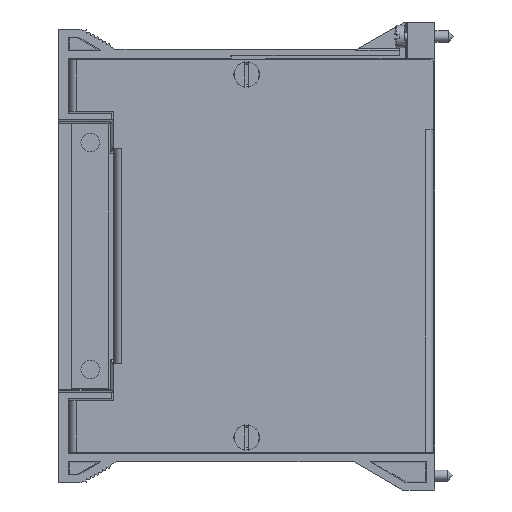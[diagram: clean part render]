
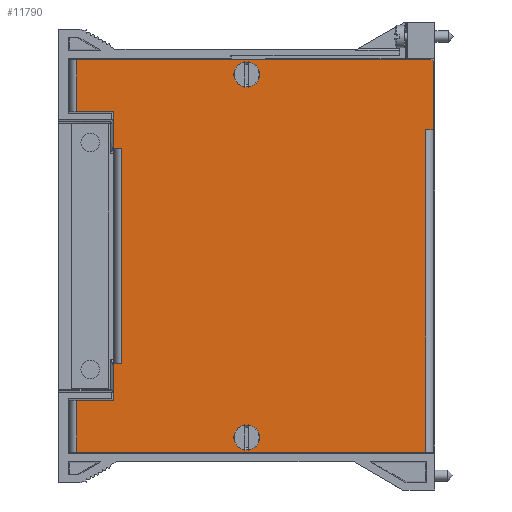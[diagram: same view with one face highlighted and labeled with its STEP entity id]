
A CAD part, top view. The second image highlights one B-rep face of the part: STEP entity #11790.
In plain terms, the highlighted planar face has unit normal (0, 0, 1).
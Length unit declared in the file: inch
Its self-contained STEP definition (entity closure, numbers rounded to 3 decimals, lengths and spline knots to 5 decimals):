
#1996=DIRECTION('',(0.,1.,0.));
#1997=VECTOR('',#1996,0.3225);
#1998=CARTESIAN_POINT('',(-2.8275,-1.2725,0.384));
#1999=LINE('',#1998,#1997);
#2000=DIRECTION('',(-1.,0.,0.));
#2001=VECTOR('',#2000,0.067);
#2002=CARTESIAN_POINT('',(-2.7605,-0.95,0.384));
#2003=LINE('',#2002,#2001);
#2004=DIRECTION('',(-1.,0.,0.));
#2005=VECTOR('',#2004,0.067);
#2006=CARTESIAN_POINT('',(-2.7605,0.95,0.384));
#2007=LINE('',#2006,#2005);
#2008=DIRECTION('',(0.,1.,0.));
#2009=VECTOR('',#2008,0.3225);
#2010=CARTESIAN_POINT('',(-2.8275,0.95,0.384));
#2011=LINE('',#2010,#2009);
#2012=DIRECTION('',(1.,0.,0.));
#2013=VECTOR('',#2012,0.328);
#2014=CARTESIAN_POINT('',(-3.1555,1.2725,0.384));
#2015=LINE('',#2014,#2013);
#2016=DIRECTION('',(-1.,0.,0.));
#2017=VECTOR('',#2016,3.123);
#2018=CARTESIAN_POINT('',(-0.0325,1.73,0.384));
#2019=LINE('',#2018,#2017);
#2020=DIRECTION('',(0.,1.,0.));
#2021=VECTOR('',#2020,0.595);
#2022=CARTESIAN_POINT('',(-0.0125,1.115,0.384));
#2023=LINE('',#2022,#2021);
#2024=DIRECTION('',(1.,0.,0.));
#2025=VECTOR('',#2024,0.067);
#2026=CARTESIAN_POINT('',(-0.0795,1.115,0.384));
#2027=LINE('',#2026,#2025);
#2028=DIRECTION('',(1.,0.,0.));
#2029=VECTOR('',#2028,3.076);
#2030=CARTESIAN_POINT('',(-3.1555,-1.73,0.384));
#2031=LINE('',#2030,#2029);
#2032=DIRECTION('',(1.,0.,0.));
#2033=VECTOR('',#2032,0.328);
#2034=CARTESIAN_POINT('',(-3.1555,-1.2725,0.384));
#2035=LINE('',#2034,#2033);
#2036=CARTESIAN_POINT('',(-1.6563,-1.6,0.384));
#2037=DIRECTION('',(0.,0.,-1.));
#2038=DIRECTION('',(-0.159,0.987,0.));
#2039=AXIS2_PLACEMENT_3D('',#2036,#2037,#2038);
#2041=CARTESIAN_POINT('',(-1.6563,-1.6,0.384));
#2042=DIRECTION('',(0.,0.,-1.));
#2043=DIRECTION('',(0.159,-0.987,0.));
#2044=AXIS2_PLACEMENT_3D('',#2041,#2042,#2043);
#2046=CARTESIAN_POINT('',(-1.6563,1.6,0.384));
#2047=DIRECTION('',(0.,0.,1.));
#2048=DIRECTION('',(0.159,0.987,0.));
#2049=AXIS2_PLACEMENT_3D('',#2046,#2047,#2048);
#2051=CARTESIAN_POINT('',(-1.6563,1.6,0.384));
#2052=DIRECTION('',(0.,0.,1.));
#2053=DIRECTION('',(-0.159,-0.987,0.));
#2054=AXIS2_PLACEMENT_3D('',#2051,#2052,#2053);
#3572=DIRECTION('',(0.,1.,0.));
#3573=VECTOR('',#3572,0.4575);
#3574=CARTESIAN_POINT('',(-3.1555,-1.73,0.384));
#3575=LINE('',#3574,#3573);
#3709=DIRECTION('',(0.,-1.,0.));
#3710=VECTOR('',#3709,2.845);
#3711=CARTESIAN_POINT('',(-0.0795,1.115,0.384));
#3712=LINE('',#3711,#3710);
#3778=DIRECTION('',(-0.707,0.707,0.));
#3779=VECTOR('',#3778,0.02828);
#3780=CARTESIAN_POINT('',(-0.0125,1.71,0.384));
#3781=LINE('',#3780,#3779);
#6299=DIRECTION('',(0.,-1.,0.));
#6300=VECTOR('',#6299,1.9);
#6301=CARTESIAN_POINT('',(-2.7605,0.95,0.384));
#6302=LINE('',#6301,#6300);
#6403=DIRECTION('',(0.,1.,0.));
#6404=VECTOR('',#6403,0.4575);
#6405=CARTESIAN_POINT('',(-3.1555,1.2725,0.384));
#6406=LINE('',#6405,#6404);
#6518=CARTESIAN_POINT('',(-1.6738,-1.4914,0.384));
#6520=CARTESIAN_POINT('',(-1.6388,-1.4914,0.384));
#6545=CARTESIAN_POINT('',(-1.6388,-1.7086,0.384));
#6547=CARTESIAN_POINT('',(-1.6738,-1.7086,0.384));
#6571=CARTESIAN_POINT('',(-1.6563,-1.6,0.384));
#6572=DIRECTION('',(0.,0.,-1.));
#6573=DIRECTION('',(0.159,0.987,0.));
#6574=AXIS2_PLACEMENT_3D('',#6571,#6572,#6573);
#6592=CARTESIAN_POINT('',(-1.6563,-1.6,0.384));
#6593=DIRECTION('',(0.,0.,-1.));
#6594=DIRECTION('',(-0.159,-0.987,0.));
#6595=AXIS2_PLACEMENT_3D('',#6592,#6593,#6594);
#6611=CARTESIAN_POINT('',(-1.6738,1.7086,0.384));
#6623=CARTESIAN_POINT('',(-1.6388,1.7086,0.384));
#6650=CARTESIAN_POINT('',(-1.6563,1.6,0.384));
#6651=DIRECTION('',(0.,0.,-1.));
#6652=DIRECTION('',(0.159,0.987,0.));
#6653=AXIS2_PLACEMENT_3D('',#6650,#6651,#6652);
#6664=CARTESIAN_POINT('',(-1.6388,1.4914,0.384));
#6676=CARTESIAN_POINT('',(-1.6738,1.4914,0.384));
#6690=CARTESIAN_POINT('',(-1.6563,1.6,0.384));
#6691=DIRECTION('',(0.,0.,-1.));
#6692=DIRECTION('',(-0.159,-0.987,0.));
#6693=AXIS2_PLACEMENT_3D('',#6690,#6691,#6692);
#9626=CARTESIAN_POINT('',(-3.1555,1.73,0.384));
#9628=VERTEX_POINT('',#9626);
#9630=CARTESIAN_POINT('',(-3.1555,-1.73,0.384));
#9632=VERTEX_POINT('',#9630);
#9641=CARTESIAN_POINT('',(-3.1555,-1.2725,0.384));
#9642=CARTESIAN_POINT('',(-2.8275,-1.2725,0.384));
#9643=VERTEX_POINT('',#9641);
#9644=VERTEX_POINT('',#9642);
#9645=CARTESIAN_POINT('',(-3.1555,1.2725,0.384));
#9646=CARTESIAN_POINT('',(-2.8275,1.2725,0.384));
#9647=VERTEX_POINT('',#9645);
#9648=VERTEX_POINT('',#9646);
#9685=CARTESIAN_POINT('',(-0.0795,1.115,0.384));
#9686=CARTESIAN_POINT('',(-0.0125,1.115,0.384));
#9687=VERTEX_POINT('',#9685);
#9688=VERTEX_POINT('',#9686);
#9697=CARTESIAN_POINT('',(-0.0795,-1.73,0.384));
#9698=VERTEX_POINT('',#9697);
#9709=CARTESIAN_POINT('',(-2.7605,0.95,0.384));
#9710=CARTESIAN_POINT('',(-2.8275,0.95,0.384));
#9711=VERTEX_POINT('',#9709);
#9712=VERTEX_POINT('',#9710);
#9717=CARTESIAN_POINT('',(-2.7605,-0.95,0.384));
#9718=CARTESIAN_POINT('',(-2.8275,-0.95,0.384));
#9719=VERTEX_POINT('',#9717);
#9720=VERTEX_POINT('',#9718);
#9797=CARTESIAN_POINT('',(-0.0125,1.71,0.384));
#9798=CARTESIAN_POINT('',(-0.0325,1.73,0.384));
#9799=VERTEX_POINT('',#9797);
#9800=VERTEX_POINT('',#9798);
#9887=VERTEX_POINT('',#6545);
#9888=VERTEX_POINT('',#6547);
#9893=VERTEX_POINT('',#6520);
#9894=VERTEX_POINT('',#6518);
#9931=VERTEX_POINT('',#6623);
#9932=VERTEX_POINT('',#6611);
#9937=VERTEX_POINT('',#6664);
#9938=VERTEX_POINT('',#6676);
#11736=CARTESIAN_POINT('',(-3.2225,0.,0.384));
#11737=DIRECTION('',(0.,0.,1.));
#11738=DIRECTION('',(1.,0.,0.));
#11739=AXIS2_PLACEMENT_3D('',#11736,#11737,#11738);
#11740=PLANE('',#11739);
#11742=ORIENTED_EDGE('',*,*,#11741,.T.);
#11744=ORIENTED_EDGE('',*,*,#11743,.F.);
#11746=ORIENTED_EDGE('',*,*,#11745,.F.);
#11748=ORIENTED_EDGE('',*,*,#11747,.T.);
#11749=ORIENTED_EDGE('',*,*,#11706,.T.);
#11750=ORIENTED_EDGE('',*,*,#11719,.F.);
#11752=ORIENTED_EDGE('',*,*,#11751,.T.);
#11753=ORIENTED_EDGE('',*,*,#11337,.F.);
#11755=ORIENTED_EDGE('',*,*,#11754,.F.);
#11757=ORIENTED_EDGE('',*,*,#11756,.F.);
#11759=ORIENTED_EDGE('',*,*,#11758,.F.);
#11761=ORIENTED_EDGE('',*,*,#11760,.T.);
#11763=ORIENTED_EDGE('',*,*,#11762,.F.);
#11765=ORIENTED_EDGE('',*,*,#11764,.T.);
#11767=ORIENTED_EDGE('',*,*,#11766,.T.);
#11768=EDGE_LOOP('',(#11742,#11744,#11746,#11748,#11749,#11750,#11752,#11753,
#11755,#11757,#11759,#11761,#11763,#11765,#11767));
#11769=FACE_OUTER_BOUND('',#11768,.F.);
#11771=ORIENTED_EDGE('',*,*,#11770,.F.);
#11773=ORIENTED_EDGE('',*,*,#11772,.F.);
#11775=ORIENTED_EDGE('',*,*,#11774,.F.);
#11777=ORIENTED_EDGE('',*,*,#11776,.F.);
#11778=EDGE_LOOP('',(#11771,#11773,#11775,#11777));
#11779=FACE_BOUND('',#11778,.F.);
#11781=ORIENTED_EDGE('',*,*,#11780,.T.);
#11783=ORIENTED_EDGE('',*,*,#11782,.F.);
#11785=ORIENTED_EDGE('',*,*,#11784,.T.);
#11787=ORIENTED_EDGE('',*,*,#11786,.F.);
#11788=EDGE_LOOP('',(#11781,#11783,#11785,#11787));
#11789=FACE_BOUND('',#11788,.F.);
#11790=ADVANCED_FACE('',(#11769,#11779,#11789),#11740,.T.);
#2040=CIRCLE('',#2039,0.11);
#2045=CIRCLE('',#2044,0.11);
#2050=CIRCLE('',#2049,0.11);
#2055=CIRCLE('',#2054,0.11);
#6575=CIRCLE('',#6574,0.11);
#6596=CIRCLE('',#6595,0.11);
#6654=CIRCLE('',#6653,0.11);
#6694=CIRCLE('',#6693,0.11);
#11337=EDGE_CURVE('',#9800,#9628,#2019,.T.);
#11706=EDGE_CURVE('',#9712,#9648,#2011,.T.);
#11719=EDGE_CURVE('',#9647,#9648,#2015,.T.);
#11741=EDGE_CURVE('',#9644,#9720,#1999,.T.);
#11743=EDGE_CURVE('',#9719,#9720,#2003,.T.);
#11745=EDGE_CURVE('',#9711,#9719,#6302,.T.);
#11747=EDGE_CURVE('',#9711,#9712,#2007,.T.);
#11751=EDGE_CURVE('',#9647,#9628,#6406,.T.);
#11754=EDGE_CURVE('',#9799,#9800,#3781,.T.);
#11756=EDGE_CURVE('',#9688,#9799,#2023,.T.);
#11758=EDGE_CURVE('',#9687,#9688,#2027,.T.);
#11760=EDGE_CURVE('',#9687,#9698,#3712,.T.);
#11762=EDGE_CURVE('',#9632,#9698,#2031,.T.);
#11764=EDGE_CURVE('',#9632,#9643,#3575,.T.);
#11766=EDGE_CURVE('',#9643,#9644,#2035,.T.);
#11770=EDGE_CURVE('',#9894,#9893,#2040,.T.);
#11772=EDGE_CURVE('',#9888,#9894,#6596,.T.);
#11774=EDGE_CURVE('',#9887,#9888,#2045,.T.);
#11776=EDGE_CURVE('',#9893,#9887,#6575,.T.);
#11780=EDGE_CURVE('',#9931,#9932,#2050,.T.);
#11782=EDGE_CURVE('',#9938,#9932,#6694,.T.);
#11784=EDGE_CURVE('',#9938,#9937,#2055,.T.);
#11786=EDGE_CURVE('',#9931,#9937,#6654,.T.);
